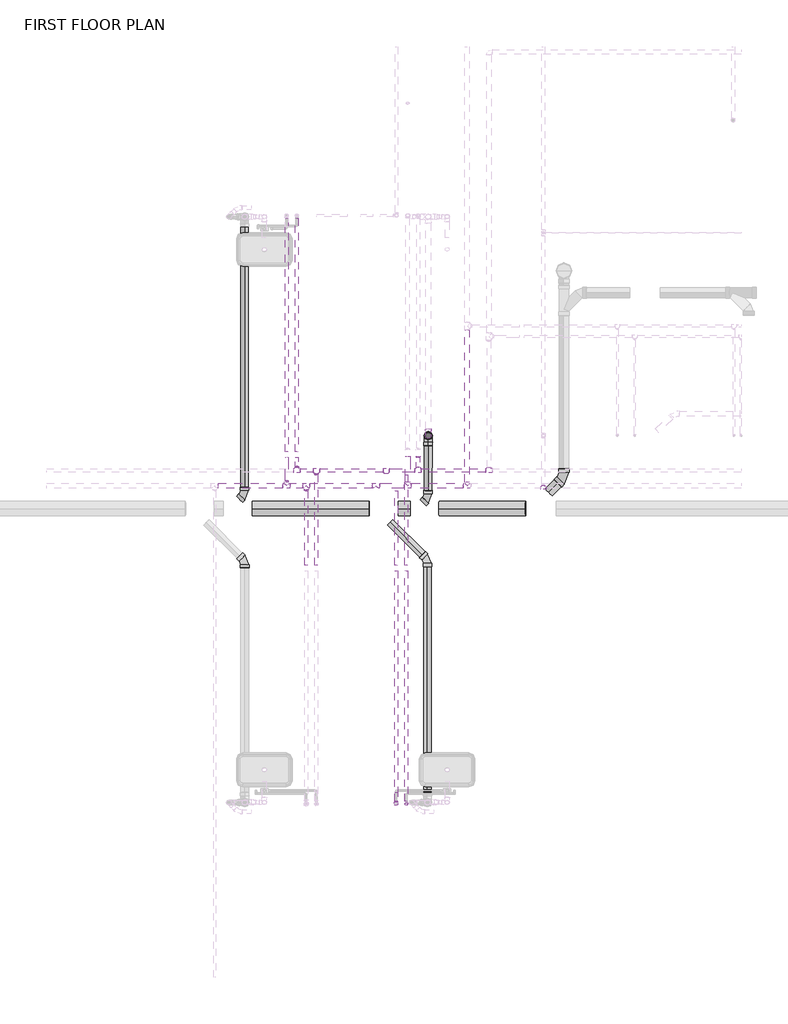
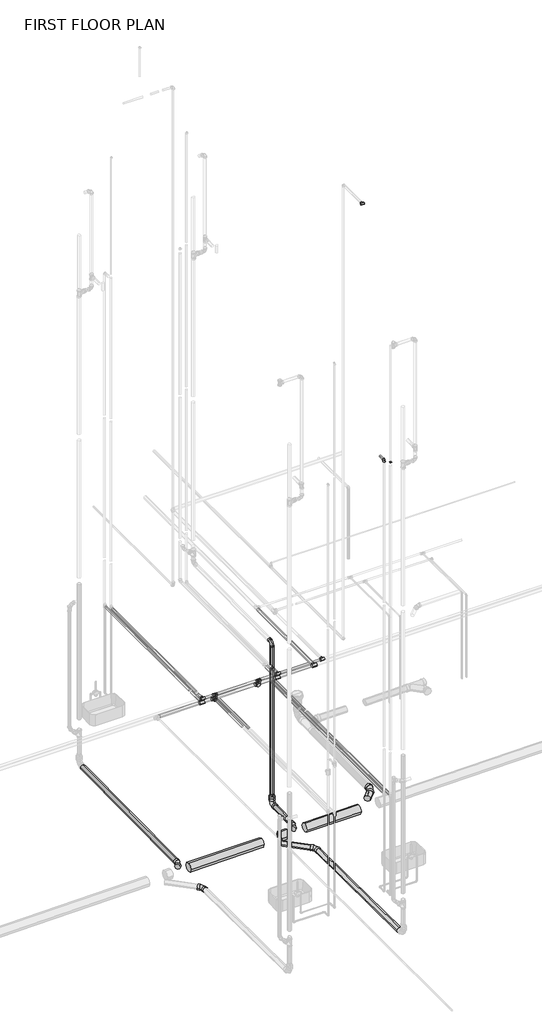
# One storey, part 12 of 29: 32 pipe segments, 27 pipe fittings.
"""IFC4 building model written with IfcOpenShell, lengths in millimetres."""

from ifc_helpers import new_model, si_unit, point, frame, frame_2d, origin, place, context, project, spatial, circle_curve, trimmed, segment, composite_curve, outline, extrude, transform, mapped, element, save
from components import bend_pvc_sch_40_dwv_standard_2a70e4cc, bend_pvc_sch_40_dwv_standard_edc13f34, bend_pvc_sch_40_dwv_standard_7a4cf5ce, bend_pvc_sch_40_dwv_standard_e287c2f6, bend_pvc_sch_40_dwv_standard_1949dfc0, bend_pvc_sch_40_dwv_standard_e66c3fd9, bend_pvc_sch_40_dwv_standard_c60b09ea, pipe_elbow_copper_k_aee2f062, pipe_tee_copper_k_36278b8a, pipe_tee_copper_k_7127fd44, pipe_tee_copper_k_feafe2f1, pipe_transition_copper_k_3b8d3413, pipe_transition_copper_k_f0b34d0f, pipe_transition_copper_k_83c73321, pipe_transition_copper_k_a0e390c6, pipe_transition_copper_k_f5fb5327, reducer_pvc_sch_40_dwv_standard_464ee0c2

model = new_model("IFC4")

# Units and contexts
model_context = context("Model", 3, world=origin())
ifc_project = project(units=[si_unit("LENGTHUNIT", "METRE", prefix="MILLI")], contexts=[model_context])

# Site, building, storey
site = spatial("IfcSite", under=ifc_project)
building = spatial("IfcBuilding", under=site)
storey = spatial("IfcBuildingStorey", under=building, Name="FIRST FLOOR PLAN", Elevation=0.0)

# Pipe fittings
placement = place(None, origin())
bend_pvc_sch_40_dwv_standard_shape = bend_pvc_sch_40_dwv_standard_2a70e4cc(model_context)
element("IfcPipeFitting", 1, ObjectType="Bend - PVC - Sch 40 - DWV : Standard", at=placement, inside=storey, context=model_context, shape_type="MappedRepresentation", body=[
    mapped(bend_pvc_sch_40_dwv_standard_shape, transform((10375.4881099, 6363.4047952, -441.8961519), x_axis=(0.0, 0.9999579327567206, 0.009172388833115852), y_axis=(0.0, -0.009172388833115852, 0.9999579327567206), z_axis=(1.0, 0.0, 0.0))),
])
bend_pvc_sch_40_dwv_standard_2_shape = bend_pvc_sch_40_dwv_standard_edc13f34(model_context)
element("IfcPipeFitting", 2, ObjectType="Bend - PVC - Sch 40 - DWV : Standard", at=placement, inside=storey, context=model_context, shape_type="MappedRepresentation", body=[
    mapped(bend_pvc_sch_40_dwv_standard_2_shape, transform((10366.9844048, 4918.8556517, -449.2707347), x_axis=(0.0, 0.9999579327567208, -0.009172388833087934), y_axis=(-0.999999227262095, -1.1402851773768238e-05, -0.0012431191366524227), z_axis=(-0.0012431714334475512, 0.009172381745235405, 0.9999571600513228))),
])
bend_pvc_sch_40_dwv_standard_3_shape = bend_pvc_sch_40_dwv_standard_7a4cf5ce(model_context)
element("IfcPipeFitting", 3, ObjectType="Bend - PVC - Sch 40 - DWV : Standard", at=placement, inside=storey, context=model_context, shape_type="MappedRepresentation", body=[
    mapped(bend_pvc_sch_40_dwv_standard_3_shape, transform((8238.7321961, 4905.3649234, -471.4507396), x_axis=(0.0, 0.9999579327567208, -0.009172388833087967), y_axis=(-0.9999992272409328, -1.1403007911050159e-05, -0.0012431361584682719), z_axis=(-0.0012431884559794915, 0.00917238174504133, 0.9999571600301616))),
])
bend_pvc_sch_40_dwv_standard_4_shape = bend_pvc_sch_40_dwv_standard_e287c2f6(model_context)
element("IfcPipeFitting", 4, ObjectType="Bend - PVC - Sch 40 - DWV : Standard", at=placement, inside=storey, context=model_context, shape_type="MappedRepresentation", body=[
    mapped(bend_pvc_sch_40_dwv_standard_4_shape, transform((10375.4881099, 6363.4047952, 2750.5167039), x_axis=(0.0, -0.9999457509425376, -0.0104161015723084), y_axis=(0.0, 0.0104161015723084, -0.9999457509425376), z_axis=(1.0, 0.0, 0.0))),
])
bend_pvc_sch_40_dwv_standard_5_shape = bend_pvc_sch_40_dwv_standard_1949dfc0(model_context)
element("IfcPipeFitting", 5, ObjectType="Bend - PVC - Sch 40 - DWV : Standard", at=placement, inside=storey, context=model_context, shape_type="MappedRepresentation", body=[
    mapped(bend_pvc_sch_40_dwv_standard_5_shape, transform((11956.7906356, 5879.3273533, -431.3250415), x_axis=(0.7070684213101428, 0.7070684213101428, 0.01041610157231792), y_axis=(-0.7071314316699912, 0.7070697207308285, 0.004189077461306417), z_axis=(-0.004402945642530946, -0.010327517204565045, 0.9999369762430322))),
])
bend_pvc_sch_40_dwv_standard_6_shape = bend_pvc_sch_40_dwv_standard_e66c3fd9(model_context)
element("IfcPipeFitting", 6, ObjectType="Bend - PVC - Sch 40 - DWV : Standard", at=placement, inside=storey, context=model_context, shape_type="MappedRepresentation", body=[
    mapped(bend_pvc_sch_40_dwv_standard_6_shape, transform((10374.7995538, 5641.4685198, -451.88706), x_axis=(0.7070684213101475, 0.7070684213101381, 0.010416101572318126), y_axis=(-0.7071451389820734, 0.7069917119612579, 0.010414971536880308), z_axis=(0.0, -0.014729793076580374, 0.999891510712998))),
])
bend_pvc_sch_40_dwv_standard_7_shape = bend_pvc_sch_40_dwv_standard_c60b09ea(model_context)
element("IfcPipeFitting", 7, ObjectType="Bend - PVC - Sch 40 - DWV : Standard", at=placement, inside=storey, context=model_context, shape_type="MappedRepresentation", body=[
    mapped(bend_pvc_sch_40_dwv_standard_7_shape, transform((8236.361114, 5679.9848558, -472.1772637), x_axis=(0.7070684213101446, 0.707068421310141, 0.010416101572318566), y_axis=(-0.7071122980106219, 0.7071008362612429, 0.0007780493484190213), z_axis=(-0.006815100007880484, -0.007915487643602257, 0.9999454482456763))),
])
pipe_elbow_copper_k_shape = pipe_elbow_copper_k_aee2f062(model_context)
element("IfcPipeFitting", 8, ObjectType="Pipe Elbow : Copper- K", at=placement, inside=storey, context=model_context, shape_type="MappedRepresentation", body=[
    mapped(pipe_elbow_copper_k_shape, transform((10002.1891516, 2071.7561808, 9083.07591), x_axis=(0.0, -1.0, 0.0), y_axis=(0.0, 0.0, -1.0), z_axis=(1.0, 0.0, 0.0))),
])
pipe_tee_copper_k_shape = pipe_tee_copper_k_36278b8a(model_context)
element("IfcPipeFitting", 9, ObjectType="Pipe Tee : Copper- K", at=placement, inside=storey, context=model_context, shape_type="MappedRepresentation", body=[
    mapped(pipe_tee_copper_k_shape, transform((10828.4459875, 5778.2175381, 2490.6882813), x_axis=(-1.0, 0.0, 0.0), y_axis=(0.0, -1.0, 0.0), z_axis=(0.0, 0.0, 1.0))),
])
element("IfcPipeFitting", 10, ObjectType="Pipe Tee : Copper- K", at=placement, inside=storey, context=model_context, shape_type="MappedRepresentation", body=[
    mapped(pipe_tee_copper_k_shape, transform((9766.3826705, 5778.2175381, 2490.6882812), x_axis=(1.0, 0.0, 0.0), y_axis=(0.0, 1.0, 0.0), z_axis=(0.0, 0.0, 1.0))),
])
element("IfcPipeFitting", 11, ObjectType="Pipe Tee : Copper- K", at=placement, inside=storey, context=model_context, shape_type="MappedRepresentation", body=[
    mapped(pipe_tee_copper_k_shape, transform((10136.7487434, 5778.2175381, 2490.6882812), x_axis=(1.0, 0.0, 0.0), y_axis=(0.0, -1.0, 0.0), z_axis=(0.0, 0.0, -1.0))),
])
element("IfcPipeFitting", 12, ObjectType="Pipe Tee : Copper- K", at=placement, inside=storey, context=model_context, shape_type="MappedRepresentation", body=[
    mapped(pipe_tee_copper_k_shape, transform((8725.0084875, 5778.2175381, 2490.6882813), x_axis=(1.0, 0.0, 0.0), y_axis=(0.0, -1.0, 0.0), z_axis=(0.0, 0.0, -1.0))),
])
element("IfcPipeFitting", 13, ObjectType="Pipe Tee : Copper- K", at=placement, inside=storey, context=model_context, shape_type="MappedRepresentation", body=[
    mapped(pipe_tee_copper_k_shape, transform((8954.4391516, 5778.2175381, 2490.6882812), x_axis=(1.0, 0.0, 0.0), y_axis=(0.0, 1.0, 0.0), z_axis=(0.0, 0.0, 1.0))),
])
pipe_tee_copper_k_2_shape = pipe_tee_copper_k_7127fd44(model_context)
element("IfcPipeFitting", 14, ObjectType="Pipe Tee : Copper- K", at=placement, inside=storey, context=model_context, shape_type="MappedRepresentation", body=[
    mapped(pipe_tee_copper_k_2_shape, transform((11082.5356736, 5956.0175381, 2413.0), x_axis=(-1.0, 0.0, 0.0), y_axis=(0.0, -1.0, 0.0), z_axis=(0.0, 0.0, 1.0))),
])
element("IfcPipeFitting", 15, ObjectType="Pipe Tee : Copper- K", at=placement, inside=storey, context=model_context, shape_type="MappedRepresentation", body=[
    mapped(pipe_tee_copper_k_2_shape, transform((9885.5348566, 5956.0175381, 2413.0), x_axis=(-1.0, 0.0, 0.0), y_axis=(0.0, 1.0, 0.0), z_axis=(0.0, 0.0, -1.0))),
])
element("IfcPipeFitting", 16, ObjectType="Pipe Tee : Copper- K", at=placement, inside=storey, context=model_context, shape_type="MappedRepresentation", body=[
    mapped(pipe_tee_copper_k_2_shape, transform((10257.4812856, 5956.0175381, 2413.0), x_axis=(-1.0, 0.0, 0.0), y_axis=(0.0, -1.0, 0.0), z_axis=(0.0, 0.0, 1.0))),
])
element("IfcPipeFitting", 17, ObjectType="Pipe Tee : Copper- K", at=placement, inside=storey, context=model_context, shape_type="MappedRepresentation", body=[
    mapped(pipe_tee_copper_k_2_shape, transform((8845.7410297, 5956.0175381, 2413.0), x_axis=(-1.0, 0.0, 0.0), y_axis=(0.0, -1.0, 0.0), z_axis=(0.0, 0.0, 1.0))),
])
element("IfcPipeFitting", 18, ObjectType="Pipe Tee : Copper- K", at=placement, inside=storey, context=model_context, shape_type="MappedRepresentation", body=[
    mapped(pipe_tee_copper_k_2_shape, transform((9073.5913377, 5956.0175381, 2413.0), x_axis=(-1.0, 0.0, 0.0), y_axis=(0.0, 1.0, 0.0), z_axis=(0.0, 0.0, -1.0))),
])
pipe_tee_copper_k_3_shape = pipe_tee_copper_k_feafe2f1(model_context)
element("IfcPipeFitting", 19, ObjectType="Pipe Tee : Copper- K", at=placement, inside=storey, context=model_context, shape_type="MappedRepresentation", body=[
    mapped(pipe_tee_copper_k_3_shape, transform((11717.5356736, 5753.8137881, 11328.4), x_axis=(-1.0, 0.0, 0.0), y_axis=(0.0, -1.0, 0.0), z_axis=(0.0, 0.0, 1.0))),
])
pipe_transition_copper_k_shape = pipe_transition_copper_k_3b8d3413(model_context)
element("IfcPipeFitting", 20, ObjectType="Pipe Transition : Copper- K", at=placement, inside=storey, context=model_context, shape_type="MappedRepresentation", body=[
    mapped(pipe_transition_copper_k_shape, transform((10257.4812856, 6121.3517881, 2413.0), x_axis=(0.0, -1.0, 0.0), y_axis=(0.9999997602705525, 0.0, 0.0006924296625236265), z_axis=(-0.0006924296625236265, 0.0, 0.9999997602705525))),
])
pipe_transition_copper_k_2_shape = pipe_transition_copper_k_f0b34d0f(model_context)
element("IfcPipeFitting", 21, ObjectType="Pipe Transition : Copper- K", at=placement, inside=storey, context=model_context, shape_type="MappedRepresentation", body=[
    mapped(pipe_transition_copper_k_2_shape, transform((11717.5356736, 5783.9762881, 11328.4), x_axis=(0.0, 1.0, 0.0), y_axis=(-1.0, 0.0, 0.0), z_axis=(0.0, 0.0, 1.0))),
])
pipe_transition_copper_k_3_shape = pipe_transition_copper_k_83c73321(model_context)
element("IfcPipeFitting", 22, ObjectType="Pipe Transition : Copper- K", at=placement, inside=storey, context=model_context, shape_type="MappedRepresentation", body=[
    mapped(pipe_transition_copper_k_3_shape, transform((8725.0084875, 5821.0800381, 2490.6882813), x_axis=(0.0, 1.0, 0.0), y_axis=(-1.0, 0.0, 0.0), z_axis=(0.0, 0.0, 1.0))),
])
element("IfcPipeFitting", 23, ObjectType="Pipe Transition : Copper- K", at=placement, inside=storey, context=model_context, shape_type="MappedRepresentation", body=[
    mapped(pipe_transition_copper_k_3_shape, transform((8954.4391516, 5735.3550381, 2490.6882812), x_axis=(0.0, -1.0, 0.0), y_axis=(1.0, 0.0, 0.0), z_axis=(0.0, 0.0, 1.0))),
])
pipe_transition_copper_k_4_shape = pipe_transition_copper_k_a0e390c6(model_context)
element("IfcPipeFitting", 24, ObjectType="Pipe Transition : Copper- K", at=placement, inside=storey, context=model_context, shape_type="MappedRepresentation", body=[
    mapped(pipe_transition_copper_k_4_shape, transform((10121.3413377, 2071.7561808, 9008.9632812), x_axis=(0.0, 0.0, -1.0), y_axis=(-1.0, 0.0, 0.0), z_axis=(0.0, 1.0, 0.0))),
])
pipe_transition_copper_k_5_shape = pipe_transition_copper_k_f5fb5327(model_context)
element("IfcPipeFitting", 25, ObjectType="Pipe Transition : Copper- K", at=placement, inside=storey, context=model_context, shape_type="MappedRepresentation", body=[
    mapped(pipe_transition_copper_k_5_shape, transform((8845.7410297, 5992.5300381, 2413.0), x_axis=(0.0, 1.0, 0.0), y_axis=(-1.0, 0.0, 0.0), z_axis=(0.0, 0.0, 1.0))),
])
element("IfcPipeFitting", 26, ObjectType="Pipe Transition : Copper- K", at=placement, inside=storey, context=model_context, shape_type="MappedRepresentation", body=[
    mapped(pipe_transition_copper_k_5_shape, transform((9073.5913377, 5919.5050381, 2413.0), x_axis=(0.0, -1.0, 0.0), y_axis=(1.0, 0.0, 0.0), z_axis=(0.0, 0.0, 1.0))),
])
reducer_pvc_sch_40_dwv_standard_shape = reducer_pvc_sch_40_dwv_standard_464ee0c2(model_context)
element("IfcPipeFitting", 27, ObjectType="Reducer - PVC - Sch 40 - DWV : Standard", at=placement, inside=storey, context=model_context, shape_type="MappedRepresentation", body=[
    mapped(reducer_pvc_sch_40_dwv_standard_shape, transform((10375.4881099, 6363.4047952, -325.9959519), x_axis=(0.0, 0.0, 1.0), y_axis=(0.0, 1.0, 0.0), z_axis=(-1.0, 0.0, 0.0))),
])

# Pipe segments
element("IfcPipeSegment", 28, ObjectType="Copper", at=placement, inside=storey, context=model_context, shape_type="SweptSolid", body=[
    extrude(outline(composite_curve([segment(trimmed(circle_curve(frame_2d((2490.6882812, 10136.7487434)), 26.9875), [point((2490.6882812, 10109.7612434))], [point((2463.7007812, 10136.7487434))], False, "CARTESIAN"), True, "CONTINUOUS"), segment(trimmed(circle_curve(frame_2d((2490.6882812, 10136.7487434)), 26.9875), [point((2463.7007812, 10136.7487434))], [point((2490.6882812, 10163.7362434))], False, "CARTESIAN"), True, "CONTINUOUS"), segment(trimmed(circle_curve(frame_2d((2490.6882812, 10136.7487434)), 26.9875), [point((2490.6882812, 10163.7362434))], [point((2517.6757812, 10136.7487434))], False, "CARTESIAN"), True, "CONTINUOUS"), segment(trimmed(circle_curve(frame_2d((2490.6882812, 10136.7487434)), 26.9875), [point((2517.6757812, 10136.7487434))], [point((2490.6882812, 10109.7612434))], False, "CARTESIAN"), True, "CONTINUOUS")], self_intersect=False)), frame((0.0, 5821.0800381, 0.0), z_axis=(0.0, 1.0, 0.0), x_axis=(0.0, 0.0, 1.0)), (0.0, 0.0, 1.0), 300.27175),
])
element("IfcPipeSegment", 29, ObjectType="Copper", at=placement, inside=storey, context=model_context, shape_type="SweptSolid", body=[
    extrude(outline(composite_curve([segment(trimmed(circle_curve(frame_2d((2413.0, 10257.4812856)), 20.6375), [point((2413.0, 10236.8437856))], [point((2392.3625, 10257.4812856))], False, "CARTESIAN"), True, "CONTINUOUS"), segment(trimmed(circle_curve(frame_2d((2413.0, 10257.4812856)), 20.6375), [point((2392.3625, 10257.4812856))], [point((2413.0, 10278.1187856))], False, "CARTESIAN"), True, "CONTINUOUS"), segment(trimmed(circle_curve(frame_2d((2413.0, 10257.4812856)), 20.6375), [point((2413.0, 10278.1187856))], [point((2433.6375, 10257.4812856))], False, "CARTESIAN"), True, "CONTINUOUS"), segment(trimmed(circle_curve(frame_2d((2413.0, 10257.4812856)), 20.6375), [point((2433.6375, 10257.4812856))], [point((2413.0, 10236.8437856))], False, "CARTESIAN"), True, "CONTINUOUS")], self_intersect=False)), frame((0.0, 5992.5300381, 0.0), z_axis=(0.0, 1.0, 0.0), x_axis=(0.0, 0.0, 1.0)), (0.0, 0.0, 1.0), 115.328),
])
element("IfcPipeSegment", 30, ObjectType="Copper", at=placement, inside=storey, context=model_context, shape_type="SweptSolid", body=[
    extrude(outline(composite_curve([segment(trimmed(circle_curve(frame_2d((5956.0175381, 2413.0)), 20.6375), [point((5935.3800381, 2413.0))], [point((5956.0175381, 2433.6375))], False, "CARTESIAN"), True, "CONTINUOUS"), segment(trimmed(circle_curve(frame_2d((5956.0175381, 2413.0)), 20.6375), [point((5956.0175381, 2433.6375))], [point((5976.6550381, 2413.0))], False, "CARTESIAN"), True, "CONTINUOUS"), segment(trimmed(circle_curve(frame_2d((5956.0175381, 2413.0)), 20.6375), [point((5976.6550381, 2413.0))], [point((5956.0175381, 2392.3625))], False, "CARTESIAN"), True, "CONTINUOUS"), segment(trimmed(circle_curve(frame_2d((5956.0175381, 2413.0)), 20.6375), [point((5956.0175381, 2392.3625))], [point((5935.3800381, 2413.0))], False, "CARTESIAN"), True, "CONTINUOUS")], self_intersect=False)), frame((9110.1038377, 0.0, 0.0), z_axis=(1.0, 0.0, 0.0), x_axis=(0.0, 1.0, 0.0)), (0.0, 0.0, 1.0), 738.9185188),
])
element("IfcPipeSegment", 31, ObjectType="Copper", at=placement, inside=storey, context=model_context, shape_type="SweptSolid", body=[
    extrude(outline(composite_curve([segment(trimmed(circle_curve(frame_2d((5778.2175381, 2490.6882812)), 26.9875), [point((5805.2050381, 2490.6882812))], [point((5778.2175381, 2463.7007812))], False, "CARTESIAN"), True, "CONTINUOUS"), segment(trimmed(circle_curve(frame_2d((5778.2175381, 2490.6882812)), 26.9875), [point((5778.2175381, 2463.7007812))], [point((5751.2300381, 2490.6882812))], False, "CARTESIAN"), True, "CONTINUOUS"), segment(trimmed(circle_curve(frame_2d((5778.2175381, 2490.6882812)), 26.9875), [point((5751.2300381, 2490.6882812))], [point((5778.2175381, 2517.6757812))], False, "CARTESIAN"), True, "CONTINUOUS"), segment(trimmed(circle_curve(frame_2d((5778.2175381, 2490.6882812)), 26.9875), [point((5778.2175381, 2517.6757812))], [point((5805.2050381, 2490.6882812))], False, "CARTESIAN"), True, "CONTINUOUS")], self_intersect=False)), frame((9809.2451705, 0.0, 0.0), z_axis=(1.0, 0.0, 0.0), x_axis=(0.0, 1.0, 0.0)), (0.0, 0.0, 1.0), 284.6410729),
])
element("IfcPipeSegment", 32, ObjectType="Copper", at=placement, inside=storey, context=model_context, shape_type="SweptSolid", body=[
    extrude(outline(composite_curve([segment(trimmed(circle_curve(frame_2d((5778.2175381, 2490.6882813)), 26.9875), [point((5805.2050381, 2490.6882813))], [point((5778.2175381, 2463.7007813))], False, "CARTESIAN"), True, "CONTINUOUS"), segment(trimmed(circle_curve(frame_2d((5778.2175381, 2490.6882813)), 26.9875), [point((5778.2175381, 2463.7007813))], [point((5751.2300381, 2490.6882813))], False, "CARTESIAN"), True, "CONTINUOUS"), segment(trimmed(circle_curve(frame_2d((5778.2175381, 2490.6882813)), 26.9875), [point((5751.2300381, 2490.6882813))], [point((5778.2175381, 2517.6757813))], False, "CARTESIAN"), True, "CONTINUOUS"), segment(trimmed(circle_curve(frame_2d((5778.2175381, 2490.6882813)), 26.9875), [point((5778.2175381, 2517.6757813))], [point((5805.2050381, 2490.6882813))], False, "CARTESIAN"), True, "CONTINUOUS")], self_intersect=False)), frame((10179.6112434, 0.0, 0.0), z_axis=(1.0, 0.0, 0.0), x_axis=(0.0, 1.0, 0.0)), (0.0, 0.0, 1.0), 605.9722441),
])
element("IfcPipeSegment", 33, ObjectType="Copper", at=placement, inside=storey, context=model_context, shape_type="SweptSolid", body=[
    extrude(outline(composite_curve([segment(trimmed(circle_curve(frame_2d((5956.0175381, 2413.0)), 20.6375), [point((5935.3800381, 2413.0))], [point((5956.0175381, 2433.6375))], False, "CARTESIAN"), True, "CONTINUOUS"), segment(trimmed(circle_curve(frame_2d((5956.0175381, 2413.0)), 20.6375), [point((5956.0175381, 2433.6375))], [point((5976.6550381, 2413.0))], False, "CARTESIAN"), True, "CONTINUOUS"), segment(trimmed(circle_curve(frame_2d((5956.0175381, 2413.0)), 20.6375), [point((5976.6550381, 2413.0))], [point((5956.0175381, 2392.3625))], False, "CARTESIAN"), True, "CONTINUOUS"), segment(trimmed(circle_curve(frame_2d((5956.0175381, 2413.0)), 20.6375), [point((5956.0175381, 2392.3625))], [point((5935.3800381, 2413.0))], False, "CARTESIAN"), True, "CONTINUOUS")], self_intersect=False)), frame((10293.9937856, 0.0, 0.0), z_axis=(1.0, 0.0, 0.0), x_axis=(0.0, 1.0, 0.0)), (0.0, 0.0, 1.0), 752.029388),
])
element("IfcPipeSegment", 34, ObjectType="Copper", at=placement, inside=storey, context=model_context, shape_type="SweptSolid", body=[
    extrude(outline(composite_curve([segment(trimmed(circle_curve(frame_2d((5956.0175381, 2413.0)), 20.6375), [point((5935.3800381, 2413.0))], [point((5956.0175381, 2433.6375))], False, "CARTESIAN"), True, "CONTINUOUS"), segment(trimmed(circle_curve(frame_2d((5956.0175381, 2413.0)), 20.6375), [point((5956.0175381, 2433.6375))], [point((5976.6550381, 2413.0))], False, "CARTESIAN"), True, "CONTINUOUS"), segment(trimmed(circle_curve(frame_2d((5956.0175381, 2413.0)), 20.6375), [point((5976.6550381, 2413.0))], [point((5956.0175381, 2392.3625))], False, "CARTESIAN"), True, "CONTINUOUS"), segment(trimmed(circle_curve(frame_2d((5956.0175381, 2413.0)), 20.6375), [point((5956.0175381, 2392.3625))], [point((5935.3800381, 2413.0))], False, "CARTESIAN"), True, "CONTINUOUS")], self_intersect=False)), frame((9922.0473566, 0.0, 0.0), z_axis=(1.0, 0.0, 0.0), x_axis=(0.0, 1.0, 0.0)), (0.0, 0.0, 1.0), 298.921429),
])
element("IfcPipeSegment", 35, ObjectType="Copper", at=placement, inside=storey, context=model_context, shape_type="SweptSolid", body=[
    extrude(outline(composite_curve([segment(trimmed(circle_curve(frame_2d((5778.2175381, 2490.6882813)), 26.9875), [point((5805.2050381, 2490.6882813))], [point((5778.2175381, 2463.7007813))], False, "CARTESIAN"), True, "CONTINUOUS"), segment(trimmed(circle_curve(frame_2d((5778.2175381, 2490.6882813)), 26.9875), [point((5778.2175381, 2463.7007813))], [point((5751.2300381, 2490.6882813))], False, "CARTESIAN"), True, "CONTINUOUS"), segment(trimmed(circle_curve(frame_2d((5778.2175381, 2490.6882813)), 26.9875), [point((5751.2300381, 2490.6882813))], [point((5778.2175381, 2517.6757813))], False, "CARTESIAN"), True, "CONTINUOUS"), segment(trimmed(circle_curve(frame_2d((5778.2175381, 2490.6882813)), 26.9875), [point((5778.2175381, 2517.6757813))], [point((5805.2050381, 2490.6882813))], False, "CARTESIAN"), True, "CONTINUOUS")], self_intersect=False)), frame((7929.6451705, 0.0, 0.0), z_axis=(1.0, 0.0, 0.0), x_axis=(0.0, 1.0, 0.0)), (0.0, 0.0, 1.0), 752.500817),
])
element("IfcPipeSegment", 36, ObjectType="Copper", at=placement, inside=storey, context=model_context, shape_type="SweptSolid", body=[
    extrude(outline(composite_curve([segment(trimmed(circle_curve(frame_2d((2490.6882817, 10828.4459875)), 26.9875), [point((2490.6882817, 10801.4584875))], [point((2463.7007817, 10828.4459875))], False, "CARTESIAN"), True, "CONTINUOUS"), segment(trimmed(circle_curve(frame_2d((2490.6882817, 10828.4459875)), 26.9875), [point((2463.7007817, 10828.4459875))], [point((2490.6882817, 10855.4334875))], False, "CARTESIAN"), True, "CONTINUOUS"), segment(trimmed(circle_curve(frame_2d((2490.6882817, 10828.4459875)), 26.9875), [point((2490.6882817, 10855.4334875))], [point((2517.6757817, 10828.4459875))], False, "CARTESIAN"), True, "CONTINUOUS"), segment(trimmed(circle_curve(frame_2d((2490.6882817, 10828.4459875)), 26.9875), [point((2517.6757817, 10828.4459875))], [point((2490.6882817, 10801.4584875))], False, "CARTESIAN"), True, "CONTINUOUS")], self_intersect=False)), frame((0.0, 5821.0800381, 0.0), z_axis=(0.0, 1.0, 0.0), x_axis=(0.0, 0.0, 1.0)), (0.0, 0.0, 1.0), 1775.939958),
])
element("IfcPipeSegment", 37, ObjectType="Copper", at=placement, inside=storey, context=model_context, shape_type="SweptSolid", body=[
    extrude(outline(composite_curve([segment(trimmed(circle_curve(frame_2d((2413.0, 8845.7410297)), 17.4625), [point((2413.0, 8863.2035297))], [point((2430.4625, 8845.7410297))], False, "CARTESIAN"), True, "CONTINUOUS"), segment(trimmed(circle_curve(frame_2d((2413.0, 8845.7410297)), 17.4625), [point((2430.4625, 8845.7410297))], [point((2413.0, 8828.2785297))], False, "CARTESIAN"), True, "CONTINUOUS"), segment(trimmed(circle_curve(frame_2d((2413.0, 8845.7410297)), 17.4625), [point((2413.0, 8828.2785297))], [point((2395.5375, 8845.7410297))], False, "CARTESIAN"), True, "CONTINUOUS"), segment(trimmed(circle_curve(frame_2d((2413.0, 8845.7410297)), 17.4625), [point((2395.5375, 8845.7410297))], [point((2413.0, 8863.2035297))], False, "CARTESIAN"), True, "CONTINUOUS")], self_intersect=False)), frame((0.0, 6174.5647881, 0.0), z_axis=(0.0, 1.0, 0.0), x_axis=(0.0, 0.0, 1.0)), (0.0, 0.0, 1.0), 2719.91525),
])
element("IfcPipeSegment", 38, ObjectType="Copper", at=placement, inside=storey, context=model_context, shape_type="SweptSolid", body=[
    extrude(outline(composite_curve([segment(trimmed(circle_curve(frame_2d((2490.6882812, 8725.0084875)), 17.4625), [point((2490.6882812, 8742.4709875))], [point((2508.1507812, 8725.0084875))], False, "CARTESIAN"), True, "CONTINUOUS"), segment(trimmed(circle_curve(frame_2d((2490.6882812, 8725.0084875)), 17.4625), [point((2508.1507812, 8725.0084875))], [point((2490.6882812, 8707.5459875))], False, "CARTESIAN"), True, "CONTINUOUS"), segment(trimmed(circle_curve(frame_2d((2490.6882812, 8725.0084875)), 17.4625), [point((2490.6882812, 8707.5459875))], [point((2473.2257812, 8725.0084875))], False, "CARTESIAN"), True, "CONTINUOUS"), segment(trimmed(circle_curve(frame_2d((2490.6882812, 8725.0084875)), 17.4625), [point((2473.2257812, 8725.0084875))], [point((2490.6882812, 8742.4709875))], False, "CARTESIAN"), True, "CONTINUOUS")], self_intersect=False)), frame((0.0, 6174.5647881, 0.0), z_axis=(0.0, 1.0, 0.0), x_axis=(0.0, 0.0, 1.0)), (0.0, 0.0, 1.0), 2719.91525),
])
element("IfcPipeSegment", 39, ObjectType="Copper", at=placement, inside=storey, context=model_context, shape_type="SweptSolid", body=[
    extrude(outline(composite_curve([segment(trimmed(circle_curve(frame_2d((5778.2175381, 2490.6882812)), 26.9875), [point((5805.2050381, 2490.6882812))], [point((5778.2175381, 2463.7007812))], False, "CARTESIAN"), True, "CONTINUOUS"), segment(trimmed(circle_curve(frame_2d((5778.2175381, 2490.6882812)), 26.9875), [point((5778.2175381, 2463.7007812))], [point((5751.2300381, 2490.6882812))], False, "CARTESIAN"), True, "CONTINUOUS"), segment(trimmed(circle_curve(frame_2d((5778.2175381, 2490.6882812)), 26.9875), [point((5751.2300381, 2490.6882812))], [point((5778.2175381, 2517.6757812))], False, "CARTESIAN"), True, "CONTINUOUS"), segment(trimmed(circle_curve(frame_2d((5778.2175381, 2490.6882812)), 26.9875), [point((5778.2175381, 2517.6757812))], [point((5805.2050381, 2490.6882812))], False, "CARTESIAN"), True, "CONTINUOUS")], self_intersect=False)), frame((8767.8709875, 0.0, 0.0), z_axis=(1.0, 0.0, 0.0), x_axis=(0.0, 1.0, 0.0)), (0.0, 0.0, 1.0), 143.7056642),
])
element("IfcPipeSegment", 40, ObjectType="Copper", at=placement, inside=storey, context=model_context, shape_type="SweptSolid", body=[
    extrude(outline(composite_curve([segment(trimmed(circle_curve(frame_2d((2413.0, 8845.7410297)), 17.4625), [point((2413.0, 8863.2035297))], [point((2430.4625, 8845.7410297))], False, "CARTESIAN"), True, "CONTINUOUS"), segment(trimmed(circle_curve(frame_2d((2413.0, 8845.7410297)), 17.4625), [point((2430.4625, 8845.7410297))], [point((2413.0, 8828.2785297))], False, "CARTESIAN"), True, "CONTINUOUS"), segment(trimmed(circle_curve(frame_2d((2413.0, 8845.7410297)), 17.4625), [point((2413.0, 8828.2785297))], [point((2395.5375, 8845.7410297))], False, "CARTESIAN"), True, "CONTINUOUS"), segment(trimmed(circle_curve(frame_2d((2413.0, 8845.7410297)), 17.4625), [point((2395.5375, 8845.7410297))], [point((2413.0, 8863.2035297))], False, "CARTESIAN"), True, "CONTINUOUS")], self_intersect=False)), frame((0.0, 6002.8487881, 0.0), z_axis=(0.0, 1.0, 0.0), x_axis=(0.0, 0.0, 1.0)), (0.0, 0.0, 1.0), 104.914),
])
element("IfcPipeSegment", 41, ObjectType="Copper", at=placement, inside=storey, context=model_context, shape_type="SweptSolid", body=[
    extrude(outline(composite_curve([segment(trimmed(circle_curve(frame_2d((2490.6882813, 8725.0084875)), 17.4625), [point((2490.6882813, 8742.4709875))], [point((2508.1507813, 8725.0084875))], False, "CARTESIAN"), True, "CONTINUOUS"), segment(trimmed(circle_curve(frame_2d((2490.6882813, 8725.0084875)), 17.4625), [point((2508.1507813, 8725.0084875))], [point((2490.6882813, 8707.5459875))], False, "CARTESIAN"), True, "CONTINUOUS"), segment(trimmed(circle_curve(frame_2d((2490.6882813, 8725.0084875)), 17.4625), [point((2490.6882813, 8707.5459875))], [point((2473.2257813, 8725.0084875))], False, "CARTESIAN"), True, "CONTINUOUS"), segment(trimmed(circle_curve(frame_2d((2490.6882813, 8725.0084875)), 17.4625), [point((2473.2257813, 8725.0084875))], [point((2490.6882813, 8742.4709875))], False, "CARTESIAN"), True, "CONTINUOUS")], self_intersect=False)), frame((0.0, 5834.5737881, 0.0), z_axis=(0.0, 1.0, 0.0), x_axis=(0.0, 0.0, 1.0)), (0.0, 0.0, 1.0), 273.189),
])
element("IfcPipeSegment", 42, ObjectType="Copper", at=placement, inside=storey, context=model_context, shape_type="SweptSolid", body=[
    extrude(outline(composite_curve([segment(trimmed(circle_curve(frame_2d((5956.0175381, 2413.0)), 20.6375), [point((5935.3800381, 2413.0))], [point((5956.0175381, 2433.6375))], False, "CARTESIAN"), True, "CONTINUOUS"), segment(trimmed(circle_curve(frame_2d((5956.0175381, 2413.0)), 20.6375), [point((5956.0175381, 2433.6375))], [point((5976.6550381, 2413.0))], False, "CARTESIAN"), True, "CONTINUOUS"), segment(trimmed(circle_curve(frame_2d((5956.0175381, 2413.0)), 20.6375), [point((5976.6550381, 2413.0))], [point((5956.0175381, 2392.3625))], False, "CARTESIAN"), True, "CONTINUOUS"), segment(trimmed(circle_curve(frame_2d((5956.0175381, 2413.0)), 20.6375), [point((5956.0175381, 2392.3625))], [point((5935.3800381, 2413.0))], False, "CARTESIAN"), True, "CONTINUOUS")], self_intersect=False)), frame((8882.2535297, 0.0, 0.0), z_axis=(1.0, 0.0, 0.0), x_axis=(0.0, 1.0, 0.0)), (0.0, 0.0, 1.0), 154.8253081),
])
element("IfcPipeSegment", 43, ObjectType="Copper", at=placement, inside=storey, context=model_context, shape_type="SweptSolid", body=[
    extrude(outline(composite_curve([segment(trimmed(circle_curve(frame_2d((5778.2175381, 2490.6882812)), 26.9875), [point((5805.2050381, 2490.6882812))], [point((5778.2175381, 2463.7007812))], False, "CARTESIAN"), True, "CONTINUOUS"), segment(trimmed(circle_curve(frame_2d((5778.2175381, 2490.6882812)), 26.9875), [point((5778.2175381, 2463.7007812))], [point((5751.2300381, 2490.6882812))], False, "CARTESIAN"), True, "CONTINUOUS"), segment(trimmed(circle_curve(frame_2d((5778.2175381, 2490.6882812)), 26.9875), [point((5751.2300381, 2490.6882812))], [point((5778.2175381, 2517.6757812))], False, "CARTESIAN"), True, "CONTINUOUS"), segment(trimmed(circle_curve(frame_2d((5778.2175381, 2490.6882812)), 26.9875), [point((5778.2175381, 2517.6757812))], [point((5805.2050381, 2490.6882812))], False, "CARTESIAN"), True, "CONTINUOUS")], self_intersect=False)), frame((8997.3016516, 0.0, 0.0), z_axis=(1.0, 0.0, 0.0), x_axis=(0.0, 1.0, 0.0)), (0.0, 0.0, 1.0), 726.2185188),
])
element("IfcPipeSegment", 44, ObjectType="Copper", at=placement, inside=storey, context=model_context, shape_type="SweptSolid", body=[
    extrude(outline(composite_curve([segment(trimmed(circle_curve(frame_2d((2413.0, 9073.5913377)), 17.4625), [point((2413.0, 9056.1288377))], [point((2395.5375, 9073.5913377))], False, "CARTESIAN"), True, "CONTINUOUS"), segment(trimmed(circle_curve(frame_2d((2413.0, 9073.5913377)), 17.4625), [point((2395.5375, 9073.5913377))], [point((2413.0, 9091.0538377))], False, "CARTESIAN"), True, "CONTINUOUS"), segment(trimmed(circle_curve(frame_2d((2413.0, 9073.5913377)), 17.4625), [point((2413.0, 9091.0538377))], [point((2430.4625, 9073.5913377))], False, "CARTESIAN"), True, "CONTINUOUS"), segment(trimmed(circle_curve(frame_2d((2413.0, 9073.5913377)), 17.4625), [point((2430.4625, 9073.5913377))], [point((2413.0, 9056.1288377))], False, "CARTESIAN"), True, "CONTINUOUS")], self_intersect=False)), frame((0.0, 4852.6059131, 0.0), z_axis=(0.0, 1.0, 0.0), x_axis=(0.0, 0.0, 1.0)), (0.0, 0.0, 1.0), 1056.580375),
])
element("IfcPipeSegment", 45, ObjectType="Copper", at=placement, inside=storey, context=model_context, shape_type="SweptSolid", body=[
    extrude(outline(composite_curve([segment(trimmed(circle_curve(frame_2d((2490.6882812, 8954.4391516)), 17.4625), [point((2490.6882812, 8936.9766516))], [point((2473.2257812, 8954.4391516))], False, "CARTESIAN"), True, "CONTINUOUS"), segment(trimmed(circle_curve(frame_2d((2490.6882812, 8954.4391516)), 17.4625), [point((2473.2257812, 8954.4391516))], [point((2490.6882812, 8971.9016516))], False, "CARTESIAN"), True, "CONTINUOUS"), segment(trimmed(circle_curve(frame_2d((2490.6882812, 8954.4391516)), 17.4625), [point((2490.6882812, 8971.9016516))], [point((2508.1507812, 8954.4391516))], False, "CARTESIAN"), True, "CONTINUOUS"), segment(trimmed(circle_curve(frame_2d((2490.6882812, 8954.4391516)), 17.4625), [point((2508.1507812, 8954.4391516))], [point((2490.6882812, 8936.9766516))], False, "CARTESIAN"), True, "CONTINUOUS")], self_intersect=False)), frame((0.0, 4852.6059131, 0.0), z_axis=(0.0, 1.0, 0.0), x_axis=(0.0, 0.0, 1.0)), (0.0, 0.0, 1.0), 869.255375),
])
element("IfcPipeSegment", 46, ObjectType="Copper", at=placement, inside=storey, context=model_context, shape_type="SweptSolid", body=[
    extrude(outline(composite_curve([segment(trimmed(circle_curve(frame_2d((2413.0, 10121.3413377)), 17.4625), [point((2413.0, 10103.8788377))], [point((2395.5375, 10121.3413377))], False, "CARTESIAN"), True, "CONTINUOUS"), segment(trimmed(circle_curve(frame_2d((2413.0, 10121.3413377)), 17.4625), [point((2395.5375, 10121.3413377))], [point((2413.0, 10138.8038377))], False, "CARTESIAN"), True, "CONTINUOUS"), segment(trimmed(circle_curve(frame_2d((2413.0, 10121.3413377)), 17.4625), [point((2413.0, 10138.8038377))], [point((2430.4625, 10121.3413377))], False, "CARTESIAN"), True, "CONTINUOUS"), segment(trimmed(circle_curve(frame_2d((2413.0, 10121.3413377)), 17.4625), [point((2430.4625, 10121.3413377))], [point((2413.0, 10103.8788377))], False, "CARTESIAN"), True, "CONTINUOUS")], self_intersect=False)), frame((0.0, 2105.0936808, 0.0), z_axis=(0.0, 1.0, 0.0), x_axis=(0.0, 0.0, 1.0)), (0.0, 0.0, 1.0), 2680.7102322),
])
element("IfcPipeSegment", 47, ObjectType="Copper", at=placement, inside=storey, context=model_context, shape_type="SweptSolid", body=[
    extrude(outline(composite_curve([segment(trimmed(circle_curve(frame_2d((2490.6882812, 10002.1891516)), 17.4625), [point((2490.6882812, 9984.7266516))], [point((2473.2257812, 10002.1891516))], False, "CARTESIAN"), True, "CONTINUOUS"), segment(trimmed(circle_curve(frame_2d((2490.6882812, 10002.1891516)), 17.4625), [point((2473.2257812, 10002.1891516))], [point((2490.6882812, 10019.6516516))], False, "CARTESIAN"), True, "CONTINUOUS"), segment(trimmed(circle_curve(frame_2d((2490.6882812, 10002.1891516)), 17.4625), [point((2490.6882812, 10019.6516516))], [point((2508.1507812, 10002.1891516))], False, "CARTESIAN"), True, "CONTINUOUS"), segment(trimmed(circle_curve(frame_2d((2490.6882812, 10002.1891516)), 17.4625), [point((2508.1507812, 10002.1891516))], [point((2490.6882812, 9984.7266516))], False, "CARTESIAN"), True, "CONTINUOUS")], self_intersect=False)), frame((0.0, 2105.0936808, 0.0), z_axis=(0.0, 1.0, 0.0), x_axis=(0.0, 0.0, 1.0)), (0.0, 0.0, 1.0), 2680.7102322),
])
element("IfcPipeSegment", 48, ObjectType="Copper", at=placement, inside=storey, context=model_context, shape_type="SweptSolid", body=[
    extrude(outline(composite_curve([segment(trimmed(circle_curve(frame_2d((2413.0, 10121.3413377)), 17.4625), [point((2413.0, 10103.8788377))], [point((2395.5375, 10121.3413377))], False, "CARTESIAN"), True, "CONTINUOUS"), segment(trimmed(circle_curve(frame_2d((2413.0, 10121.3413377)), 17.4625), [point((2395.5375, 10121.3413377))], [point((2413.0, 10138.8038377))], False, "CARTESIAN"), True, "CONTINUOUS"), segment(trimmed(circle_curve(frame_2d((2413.0, 10121.3413377)), 17.4625), [point((2413.0, 10138.8038377))], [point((2430.4625, 10121.3413377))], False, "CARTESIAN"), True, "CONTINUOUS"), segment(trimmed(circle_curve(frame_2d((2413.0, 10121.3413377)), 17.4625), [point((2430.4625, 10121.3413377))], [point((2413.0, 10103.8788377))], False, "CARTESIAN"), True, "CONTINUOUS")], self_intersect=False)), frame((0.0, 4852.6059131, 0.0), z_axis=(0.0, 1.0, 0.0), x_axis=(0.0, 0.0, 1.0)), (0.0, 0.0, 1.0), 1056.580375),
])
element("IfcPipeSegment", 49, ObjectType="Copper", at=placement, inside=storey, context=model_context, shape_type="SweptSolid", body=[
    extrude(outline(composite_curve([segment(trimmed(circle_curve(frame_2d((2490.6882812, 10002.1891516)), 17.4625), [point((2490.6882812, 9984.7266516))], [point((2473.2257812, 10002.1891516))], False, "CARTESIAN"), True, "CONTINUOUS"), segment(trimmed(circle_curve(frame_2d((2490.6882812, 10002.1891516)), 17.4625), [point((2473.2257812, 10002.1891516))], [point((2490.6882812, 10019.6516516))], False, "CARTESIAN"), True, "CONTINUOUS"), segment(trimmed(circle_curve(frame_2d((2490.6882812, 10002.1891516)), 17.4625), [point((2490.6882812, 10019.6516516))], [point((2508.1507812, 10002.1891516))], False, "CARTESIAN"), True, "CONTINUOUS"), segment(trimmed(circle_curve(frame_2d((2490.6882812, 10002.1891516)), 17.4625), [point((2508.1507812, 10002.1891516))], [point((2490.6882812, 9984.7266516))], False, "CARTESIAN"), True, "CONTINUOUS")], self_intersect=False)), frame((0.0, 4852.6059131, 0.0), z_axis=(0.0, 1.0, 0.0), x_axis=(0.0, 0.0, 1.0)), (0.0, 0.0, 1.0), 869.255375),
])
element("IfcPipeSegment", 50, ObjectType="Copper", at=placement, inside=storey, context=model_context, shape_type="SweptSolid", body=[
    extrude(outline(composite_curve([segment(trimmed(circle_curve(frame_2d((9083.07591, 10002.1891516)), 17.4625), [point((9083.07591, 9984.7266516))], [point((9065.61341, 10002.1891516))], False, "CARTESIAN"), True, "CONTINUOUS"), segment(trimmed(circle_curve(frame_2d((9083.07591, 10002.1891516)), 17.4625), [point((9065.61341, 10002.1891516))], [point((9083.07591, 10019.6516516))], False, "CARTESIAN"), True, "CONTINUOUS"), segment(trimmed(circle_curve(frame_2d((9083.07591, 10002.1891516)), 17.4625), [point((9083.07591, 10019.6516516))], [point((9100.53841, 10002.1891516))], False, "CARTESIAN"), True, "CONTINUOUS"), segment(trimmed(circle_curve(frame_2d((9083.07591, 10002.1891516)), 17.4625), [point((9100.53841, 10002.1891516))], [point((9083.07591, 9984.7266516))], False, "CARTESIAN"), True, "CONTINUOUS")], self_intersect=False)), frame((0.0, 2098.7436808, 0.0), z_axis=(0.0, 1.0, 0.0), x_axis=(0.0, 0.0, 1.0)), (0.0, 0.0, 1.0), 107.2419822),
])
element("IfcPipeSegment", 51, ObjectType="PVC - SAN/STORM", at=placement, inside=storey, context=model_context, shape_type="SweptSolid", body=[
    extrude(outline(composite_curve([segment(trimmed(circle_curve(frame_2d((0.0, -44.4500001)), 44.45), [point((-44.45, -44.4499147))], [point((8.54e-05, 0.0))], False, "CARTESIAN"), True, "CONTINUOUS"), segment(trimmed(circle_curve(frame_2d((0.0, -44.4500001)), 44.45), [point((8.54e-05, 0.0))], [point((44.45, -44.4500855))], False, "CARTESIAN"), True, "CONTINUOUS"), segment(trimmed(circle_curve(frame_2d((0.0, -44.4500001)), 44.45), [point((44.45, -44.4500855))], [point((-8.54e-05, -88.9))], False, "CARTESIAN"), True, "CONTINUOUS"), segment(trimmed(circle_curve(frame_2d((0.0, -44.4500001)), 44.45), [point((-8.54e-05, -88.9))], [point((-44.45, -44.4499147))], False, "CARTESIAN"), True, "CONTINUOUS")], self_intersect=False)), frame((8236.3811498, 5762.8841912, -515.9722954), z_axis=(0.00024271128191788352, 0.9999686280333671, 0.007917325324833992), x_axis=(0.9999999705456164, -0.0002427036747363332, -1.921624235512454e-06)), (0.0, 0.0, 1.0), 3033.1283996),
])
element("IfcPipeSegment", 52, ObjectType="PVC - SAN/STORM", at=placement, inside=storey, context=model_context, shape_type="SweptSolid", body=[
    extrude(outline(composite_curve([segment(trimmed(circle_curve(frame_2d((0.0, -44.45)), 44.45), [point((44.45, -44.45))], [point((0.0, -88.9))], False, "CARTESIAN"), True, "CONTINUOUS"), segment(trimmed(circle_curve(frame_2d((0.0, -44.45)), 44.45), [point((0.0, -88.9))], [point((-44.45, -44.45))], False, "CARTESIAN"), True, "CONTINUOUS"), segment(trimmed(circle_curve(frame_2d((0.0, -44.45)), 44.45), [point((-44.45, -44.45))], [point((0.0, 0.0))], False, "CARTESIAN"), True, "CONTINUOUS"), segment(trimmed(circle_curve(frame_2d((0.0, -44.45)), 44.45), [point((0.0, 0.0))], [point((44.45, -44.45))], False, "CARTESIAN"), True, "CONTINUOUS")], self_intersect=False)), frame((10366.9844048, 4836.716837, -404.0654239), z_axis=(0.0, -0.9999579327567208, 0.009172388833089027), x_axis=(1.0, 0.0, 0.0)), (0.0, 0.0, 1.0), 2630.6010371),
])
element("IfcPipeSegment", 53, ObjectType="PVC - SAN/STORM", at=placement, inside=storey, context=model_context, shape_type="SweptSolid", body=[
    extrude(outline(composite_curve([segment(trimmed(circle_curve(frame_2d((0.0, -44.45)), 44.45), [point((-44.4500001, -44.4492562))], [point((0.0007438, 0.0))], False, "CARTESIAN"), True, "CONTINUOUS"), segment(trimmed(circle_curve(frame_2d((0.0, -44.45)), 44.45), [point((0.0007438, 0.0))], [point((44.45, -44.4507439))], False, "CARTESIAN"), True, "CONTINUOUS"), segment(trimmed(circle_curve(frame_2d((0.0, -44.45)), 44.45), [point((44.45, -44.4507439))], [point((-0.0007439, -88.9))], False, "CARTESIAN"), True, "CONTINUOUS"), segment(trimmed(circle_curve(frame_2d((0.0, -44.45)), 44.45), [point((-0.0007439, -88.9))], [point((-44.4500001, -44.4492562))], False, "CARTESIAN"), True, "CONTINUOUS")], self_intersect=False)), frame((10374.8933332, 5724.66425, -495.116294), z_axis=(0.001136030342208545, 0.9998908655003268, 0.01472978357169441), x_axis=(0.9999993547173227, -0.0011359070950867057, -1.6733491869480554e-05)), (0.0, 0.0, 1.0), 523.5570982),
])
element("IfcPipeSegment", 54, ObjectType="PVC - SAN/STORM", at=placement, inside=storey, context=model_context, shape_type="SweptSolid", body=[
    extrude(outline(composite_curve([segment(trimmed(circle_curve(frame_2d((0.0, -44.45)), 44.45), [point((44.4487949, -44.122705))], [point((0.3272949, -88.898795))], False, "CARTESIAN"), True, "CONTINUOUS"), segment(trimmed(circle_curve(frame_2d((0.0, -44.45)), 44.45), [point((0.3272949, -88.898795))], [point((-44.448795, -44.7772949))], False, "CARTESIAN"), True, "CONTINUOUS"), segment(trimmed(circle_curve(frame_2d((0.0, -44.45)), 44.45), [point((-44.448795, -44.7772949))], [point((-0.3272949, -0.0012049))], False, "CARTESIAN"), True, "CONTINUOUS"), segment(trimmed(circle_curve(frame_2d((0.0, -44.45)), 44.45), [point((-0.3272949, -0.0012049))], [point((44.4487949, -44.122705))], False, "CARTESIAN"), True, "CONTINUOUS")], self_intersect=False)), frame((9933.6377242, 5352.8181546, -409.3382866), z_axis=(0.7069628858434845, -0.7072122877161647, 0.007366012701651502), x_axis=(0.7072506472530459, 0.7069245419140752, -0.007363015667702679)), (0.0, 0.0, 1.0), 530.4194914),
])
element("IfcPipeSegment", 55, ObjectType="PVC - SAN/STORM", at=placement, inside=storey, context=model_context, shape_type="SweptSolid", body=[
    extrude(outline(composite_curve([segment(trimmed(circle_curve(frame_2d((10375.4881099, 6363.4047952)), 30.1625), [point((10345.3256099, 6363.4047952))], [point((10375.4881099, 6393.5672952))], False, "CARTESIAN"), True, "CONTINUOUS"), segment(trimmed(circle_curve(frame_2d((10375.4881099, 6363.4047952)), 30.1625), [point((10375.4881099, 6393.5672952))], [point((10405.6506099, 6363.4047952))], False, "CARTESIAN"), True, "CONTINUOUS"), segment(trimmed(circle_curve(frame_2d((10375.4881099, 6363.4047952)), 30.1625), [point((10405.6506099, 6363.4047952))], [point((10375.4881099, 6333.2422952))], False, "CARTESIAN"), True, "CONTINUOUS"), segment(trimmed(circle_curve(frame_2d((10375.4881099, 6363.4047952)), 30.1625), [point((10375.4881099, 6333.2422952))], [point((10345.3256099, 6363.4047952))], False, "CARTESIAN"), True, "CONTINUOUS")], self_intersect=False)), frame((0.0, 0.0, -246.6209519), z_axis=(0.0, 0.0, 1.0), x_axis=(1.0, 0.0, 0.0)), (0.0, 0.0, 1.0), 2919.3374558),
])
element("IfcPipeSegment", 56, ObjectType="PVC - SAN/STORM", at=placement, inside=storey, context=model_context, shape_type="SweptSolid", body=[
    extrude(outline(composite_curve([segment(trimmed(circle_curve(frame_2d((0.0, -57.15)), 57.15), [point((-57.1469, -56.554752))], [point((0.5952479, -0.0031))], False, "CARTESIAN"), True, "CONTINUOUS"), segment(trimmed(circle_curve(frame_2d((0.0, -57.15)), 57.15), [point((0.5952479, -0.0031))], [point((57.1469, -57.7452479))], False, "CARTESIAN"), True, "CONTINUOUS"), segment(trimmed(circle_curve(frame_2d((0.0, -57.15)), 57.15), [point((57.1469, -57.7452479))], [point((-0.5952479, -114.2969))], False, "CARTESIAN"), True, "CONTINUOUS"), segment(trimmed(circle_curve(frame_2d((0.0, -57.15)), 57.15), [point((-0.5952479, -114.2969))], [point((-57.1469, -56.554752))], False, "CARTESIAN"), True, "CONTINUOUS")], self_intersect=False)), frame((11779.2097931, 5702.5883185, -491.0848542), z_axis=(0.7070684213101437, 0.707068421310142, 0.010416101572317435), x_axis=(0.7071451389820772, -0.706991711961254, -0.010414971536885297)), (0.0, 0.0, 1.0), 151.1256605),
])
element("IfcPipeSegment", 57, ObjectType="PVC - SAN/STORM", at=placement, inside=storey, context=model_context, shape_type="SweptSolid", body=[
    extrude(outline(composite_curve([segment(trimmed(circle_curve(frame_2d((0.0, -84.1375)), 84.1375), [point((0.0, 0.0))], [point((84.1375, -84.1375))], False, "CARTESIAN"), True, "CONTINUOUS"), segment(trimmed(circle_curve(frame_2d((0.0, -84.1375)), 84.1375), [point((84.1375, -84.1375))], [point((0.0, -168.275))], False, "CARTESIAN"), True, "CONTINUOUS"), segment(trimmed(circle_curve(frame_2d((0.0, -84.1375)), 84.1375), [point((0.0, -168.275))], [point((-84.1375, -84.1375))], False, "CARTESIAN"), True, "CONTINUOUS"), segment(trimmed(circle_curve(frame_2d((0.0, -84.1375)), 84.1375), [point((-84.1375, -84.1375))], [point((0.0, 0.0))], False, "CARTESIAN"), True, "CONTINUOUS")], self_intersect=False)), frame((10026.0132681, 5598.1603988, -453.0128608), z_axis=(0.999945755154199, 0.0, 0.010415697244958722), x_axis=(0.010415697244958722, 0.0, -0.999945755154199)), (0.0, 0.0, 1.0), 138.7952247),
])
element("IfcPipeSegment", 58, ObjectType="PVC - SAN/STORM", at=placement, inside=storey, context=model_context, shape_type="SweptSolid", body=[
    extrude(outline(composite_curve([segment(trimmed(circle_curve(frame_2d((0.0, -84.1375)), 84.1375), [point((0.0, 0.0))], [point((84.1375, -84.1375))], False, "CARTESIAN"), True, "CONTINUOUS"), segment(trimmed(circle_curve(frame_2d((0.0, -84.1375)), 84.1375), [point((84.1375, -84.1375))], [point((0.0, -168.275))], False, "CARTESIAN"), True, "CONTINUOUS"), segment(trimmed(circle_curve(frame_2d((0.0, -84.1375)), 84.1375), [point((0.0, -168.275))], [point((-84.1374999, -84.1375))], False, "CARTESIAN"), True, "CONTINUOUS"), segment(trimmed(circle_curve(frame_2d((0.0, -84.1375)), 84.1375), [point((-84.1374999, -84.1375))], [point((0.0, 0.0))], False, "CARTESIAN"), True, "CONTINUOUS")], self_intersect=False)), frame((10501.3327078, 5598.1603988, -448.0618088), z_axis=(0.999945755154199, 0.0, 0.01041569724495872), x_axis=(0.01041569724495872, 0.0, -0.999945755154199)), (0.0, 0.0, 1.0), 1007.6626117),
])
element("IfcPipeSegment", 59, ObjectType="PVC - SAN/STORM", at=placement, inside=storey, context=model_context, shape_type="SweptSolid", body=[
    extrude(outline(composite_curve([segment(trimmed(circle_curve(frame_2d((0.0, -84.1375)), 84.1375), [point((0.0, 0.0))], [point((84.1375, -84.1375))], False, "CARTESIAN"), True, "CONTINUOUS"), segment(trimmed(circle_curve(frame_2d((0.0, -84.1375)), 84.1375), [point((84.1375, -84.1375))], [point((0.0, -168.275))], False, "CARTESIAN"), True, "CONTINUOUS"), segment(trimmed(circle_curve(frame_2d((0.0, -84.1375)), 84.1375), [point((0.0, -168.275))], [point((-84.1374999, -84.1375))], False, "CARTESIAN"), True, "CONTINUOUS"), segment(trimmed(circle_curve(frame_2d((0.0, -84.1375)), 84.1375), [point((-84.1374999, -84.1375))], [point((0.0, 0.0))], False, "CARTESIAN"), True, "CONTINUOUS")], self_intersect=False)), frame((8324.3701069, 5598.1603988, -470.7376222), z_axis=(0.999945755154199, 0.0, 0.010415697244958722), x_axis=(0.010415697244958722, 0.0, -0.999945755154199)), (0.0, 0.0, 1.0), 1365.1854716),
])

save(model, "model.ifc")
